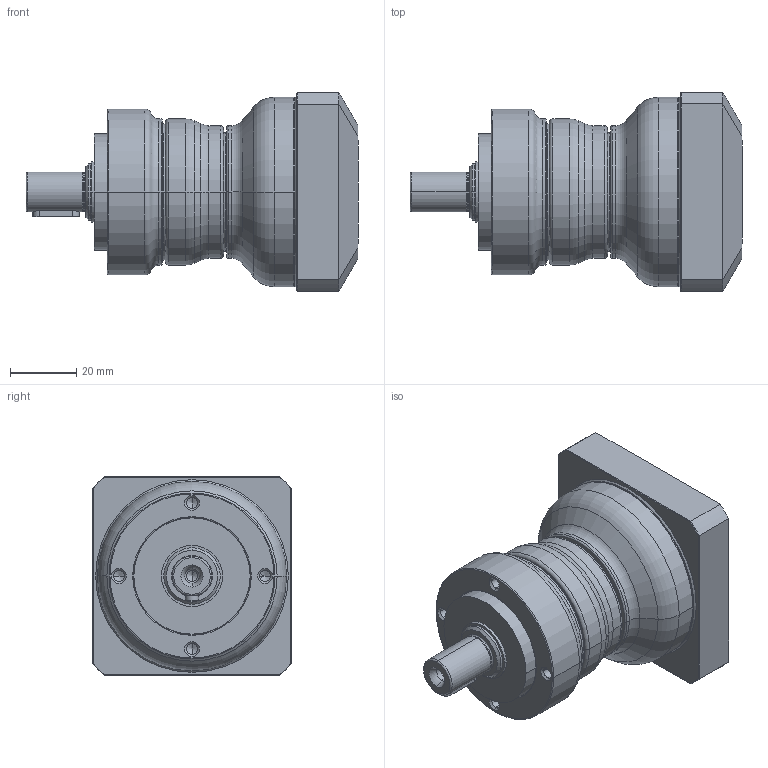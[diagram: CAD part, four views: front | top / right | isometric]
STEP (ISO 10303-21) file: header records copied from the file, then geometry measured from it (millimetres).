
FILE_DESCRIPTION((''),'2;1');
FILE_NAME('PE2-050_1ST_11-P0411200101_ASM','2017-05-25T',('d01943'),(''),'PRO/ENGINEER BY PARAMETRIC TECHNOLOGY CORPORATION, 2008410','PRO/ENGINEER BY PARAMETRIC TECHNOLOGY CORPORATION, 2008410','');
FILE_SCHEMA(('CONFIG_CONTROL_DESIGN'));
Length unit declared in the file: millimetre
Products named in the file (9): P1323100001; P0250100001; P1324100101; P0350101001; P0941101001; P0503200005; P0411200101; P1702300001; PE2-050_1ST_11-P0411200101_ASM
Assembly tree (8 placements, depth 2):
  PE2-050_1ST_11-P0411200101_ASM
    P1323100001
    P0250100001
    P1324100101
    P0350101001
    P0941101001
    P0503200005
    P0411200101
    P1702300001
Bounding box: 100 x 60 x 60 mm (x, y, z)
Volume: 123485.4 mm3; surface area: 49297.4 mm2
Topology: 8 solids, 8 shells, 457 faces, 1012 edges, 578 vertices
Faces by surface type: cone 142, cylinder 132, torus 92, plane 75, bspline 16
Entity records: 17154 total; most frequent: CARTESIAN_POINT 6891, DIRECTION 2325, ORIENTED_EDGE 1952, AXIS2_PLACEMENT_3D 994, EDGE_CURVE 976, VERTEX_POINT 578, CIRCLE 536, EDGE_LOOP 516
